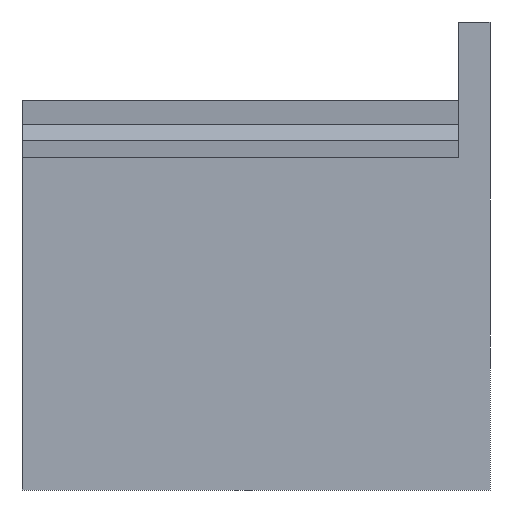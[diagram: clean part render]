
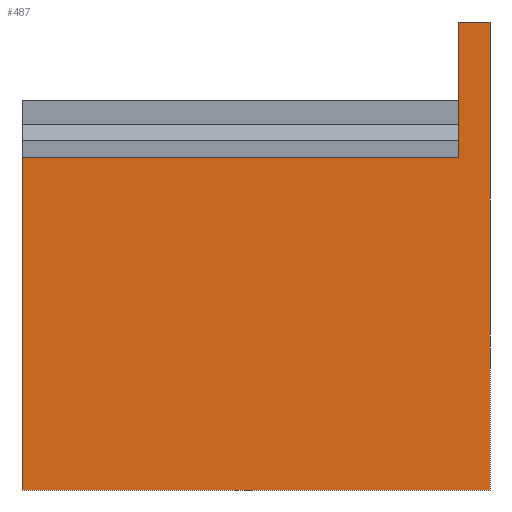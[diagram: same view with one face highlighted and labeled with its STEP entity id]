
A CAD part, front view. The second image highlights one B-rep face of the part: STEP entity #487.
In plain terms, the highlighted planar face has unit normal (0, -1, 0).
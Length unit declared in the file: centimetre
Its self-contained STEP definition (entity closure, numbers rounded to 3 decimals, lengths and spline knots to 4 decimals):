
#3 = CARTESIAN_POINT ( 'NONE',  ( 0., 0., 0. ) ) ;
#13 = DIRECTION ( 'NONE',  ( 0., 0., -1. ) ) ;
#31 = ORIENTED_EDGE ( 'NONE', *, *, #653, .F. ) ;
#41 = VERTEX_POINT ( 'NONE', #221 ) ;
#66 = EDGE_CURVE ( 'NONE', #590, #278, #114, .T. ) ;
#76 = CARTESIAN_POINT ( 'NONE',  ( 0., 0., 1000. ) ) ;
#83 = VERTEX_POINT ( 'NONE', #227 ) ;
#102 = LINE ( 'NONE', #3, #624 ) ;
#107 = DIRECTION ( 'NONE',  ( 0., 0., 1. ) ) ;
#113 = CARTESIAN_POINT ( 'NONE',  ( 0., 0., 1000. ) ) ;
#114 = LINE ( 'NONE', #485, #620 ) ;
#137 = ORIENTED_EDGE ( 'NONE', *, *, #530, .F. ) ;
#156 = VERTEX_POINT ( 'NONE', #464 ) ;
#171 = LINE ( 'NONE', #113, #539 ) ;
#183 = ORIENTED_EDGE ( 'NONE', *, *, #593, .T. ) ;
#199 = CARTESIAN_POINT ( 'NONE',  ( 0., 0., 0. ) ) ;
#209 = CARTESIAN_POINT ( 'NONE',  ( 932.8045, 0., 709.5968 ) ) ;
#212 = DIRECTION ( 'NONE',  ( 1., 0., 0. ) ) ;
#221 = CARTESIAN_POINT ( 'NONE',  ( 932.8045, 0., 1000. ) ) ;
#227 = CARTESIAN_POINT ( 'NONE',  ( 932.8045, 0., 709.5968 ) ) ;
#262 = VECTOR ( 'NONE', #623, 100. ) ;
#278 = VERTEX_POINT ( 'NONE', #407 ) ;
#285 = DIRECTION ( 'NONE',  ( 0., 0., -1. ) ) ;
#300 = LINE ( 'NONE', #209, #336 ) ;
#304 = EDGE_CURVE ( 'NONE', #156, #550, #392, .T. ) ;
#330 = DIRECTION ( 'NONE',  ( 1., 0., 0. ) ) ;
#336 = VECTOR ( 'NONE', #513, 100. ) ;
#347 = AXIS2_PLACEMENT_3D ( 'NONE', #582, #379, #107 ) ;
#379 = DIRECTION ( 'NONE',  ( 0., 1., 0. ) ) ;
#392 = LINE ( 'NONE', #76, #473 ) ;
#407 = CARTESIAN_POINT ( 'NONE',  ( 1000., 0., 0. ) ) ;
#418 = LINE ( 'NONE', #565, #262 ) ;
#457 = EDGE_CURVE ( 'NONE', #550, #278, #102, .T. ) ;
#464 = CARTESIAN_POINT ( 'NONE',  ( 0., 0., 709.5968 ) ) ;
#473 = VECTOR ( 'NONE', #285, 100. ) ;
#485 = CARTESIAN_POINT ( 'NONE',  ( 1000., 0., 1000. ) ) ;
#487 = ADVANCED_FACE ( 'NONE', ( #632 ), #637, .F. ) ;
#513 = DIRECTION ( 'NONE',  ( -1., 0., 0. ) ) ;
#530 = EDGE_CURVE ( 'NONE', #41, #590, #171, .T. ) ;
#539 = VECTOR ( 'NONE', #330, 100. ) ;
#550 = VERTEX_POINT ( 'NONE', #199 ) ;
#559 = CARTESIAN_POINT ( 'NONE',  ( 1000., 0., 1000. ) ) ;
#565 = CARTESIAN_POINT ( 'NONE',  ( 932.8045, 0., 709.5968 ) ) ;
#577 = EDGE_LOOP ( 'NONE', ( #31, #183, #649, #658, #645, #137 ) ) ;
#582 = CARTESIAN_POINT ( 'NONE',  ( 0., 0., 1000. ) ) ;
#590 = VERTEX_POINT ( 'NONE', #559 ) ;
#593 = EDGE_CURVE ( 'NONE', #83, #156, #300, .T. ) ;
#620 = VECTOR ( 'NONE', #13, 100. ) ;
#623 = DIRECTION ( 'NONE',  ( 0., 0., 1. ) ) ;
#624 = VECTOR ( 'NONE', #212, 100. ) ;
#632 = FACE_OUTER_BOUND ( 'NONE', #577, .T. ) ;
#637 = PLANE ( 'NONE',  #347 ) ;
#645 = ORIENTED_EDGE ( 'NONE', *, *, #66, .F. ) ;
#649 = ORIENTED_EDGE ( 'NONE', *, *, #304, .T. ) ;
#653 = EDGE_CURVE ( 'NONE', #83, #41, #418, .T. ) ;
#658 = ORIENTED_EDGE ( 'NONE', *, *, #457, .T. ) ;
